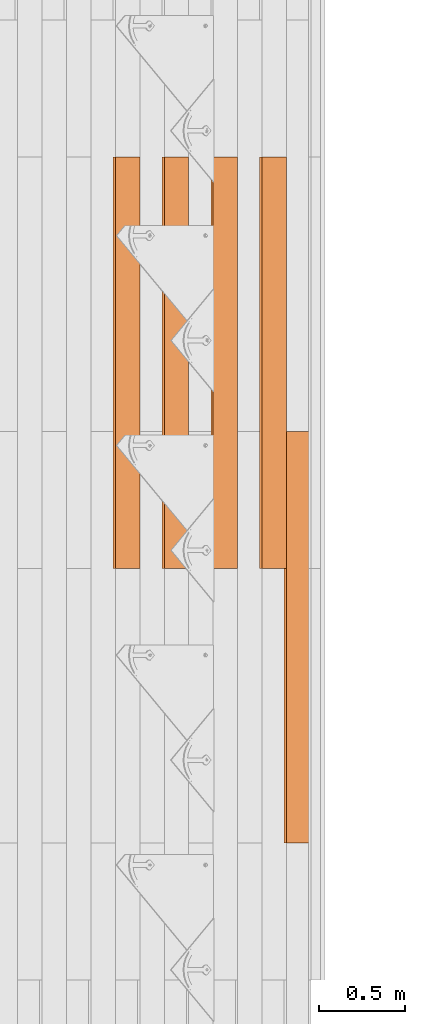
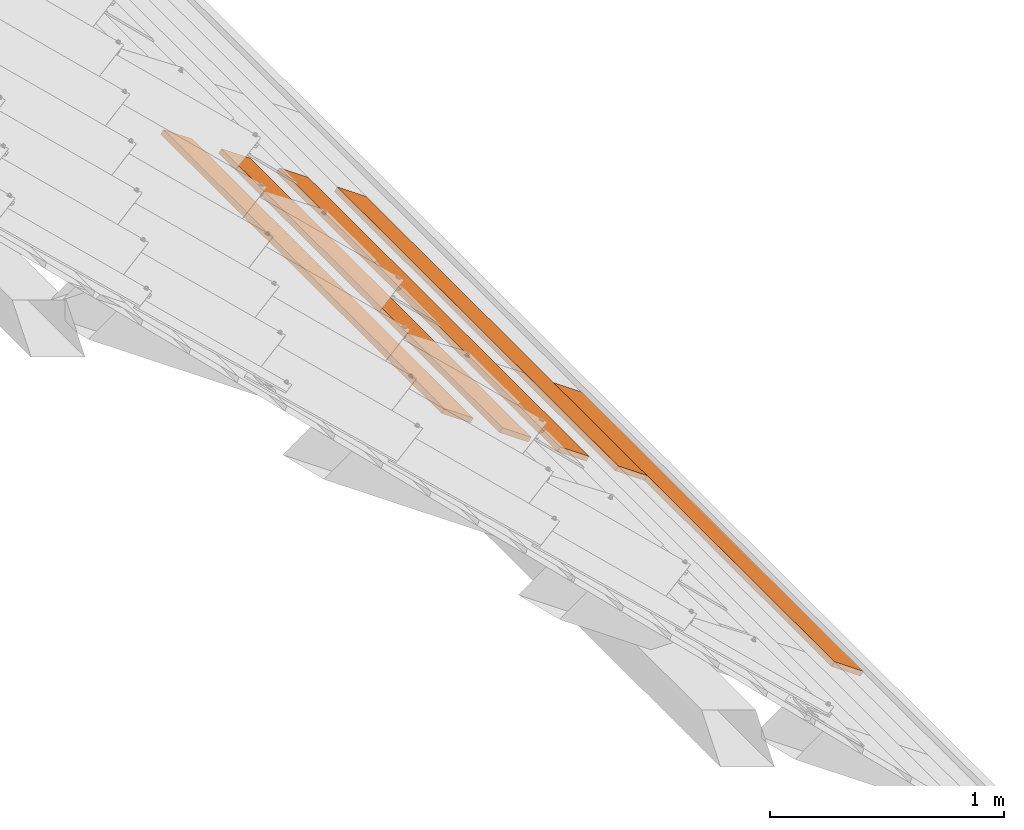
# One storey, part 104 of 151: 5 proxies, 1 element without a shape of its own.
"""IFC2X3 building model written with IfcOpenShell, lengths in millimetres."""

import ifcopenshell
import ifcopenshell.guid

model = None  # the IFC model being written
_history = None  # IfcOwnerHistory: only IFC2X3 demands one
_inside = {}  # id of a spatial element -> (the spatial element, [elements in it])
_under = {}  # id of a project, library or spatial element -> (it, [spatial elements below it])
_declared = {}  # id of a project -> (the project, [libraries it declares])
_typed = {}  # id of a type object -> (the type object, [elements of that type])
_made_of = {}  # id of a material, layer set ... -> (it, [elements and type objects made of it])


def new_model(schema):
    """Start an empty IFC model of exactly this schema.

    Asked for "IFC4X3", IfcOpenShell would pick the latest addendum, in which some entities
    have other attributes; the version numbers below select the first issue.
    IFC2X3 requires an IfcOwnerHistory on every rooted entity: one is made here for all.
    """
    global model, _history
    if schema == "IFC4X3":
        model = ifcopenshell.file(schema_version=(4, 3, 0, 0))
    else:
        model = ifcopenshell.file(schema=schema)
    _inside.clear()
    _under.clear()
    _declared.clear()
    _typed.clear()
    _made_of.clear()
    _history = None
    if model.schema == "IFC2X3":
        org = make("IfcOrganization", Name="unknown")
        user = make(
            "IfcPersonAndOrganization",
            ThePerson=make("IfcPerson", FamilyName="unknown"),
            TheOrganization=org,
        )
        app = make(
            "IfcApplication",
            ApplicationDeveloper=org,
            Version="unknown",
            ApplicationFullName="unknown",
            ApplicationIdentifier="unknown",
        )
        _history = make(
            "IfcOwnerHistory",
            OwningUser=user,
            OwningApplication=app,
            ChangeAction="ADDED",
            CreationDate=0,
        )
    return model


def make(cls, **values):
    """One entity of the class cls with the attributes given. An attribute that is None is left unset."""
    return model.create_entity(
        cls, **{name: value for name, value in values.items() if value is not None}
    )


def entity(cls, *values):
    """Any entity or typed value of the class cls, its attributes in the order of the schema. None: left unset."""
    e = model.create_entity(cls)
    for i, value in enumerate(values):
        if value is not None:
            e[i] = value
    return e


def rooted(cls, **values):
    """An entity with a GlobalId (a new one), such as an element, a storey or a relation."""
    return make(cls, GlobalId=ifcopenshell.guid.new(), OwnerHistory=_history, **values)


def si_unit(unit_type, name, prefix=None):
    """IfcSIUnit, for example si_unit("LENGTHUNIT", "METRE", prefix="MILLI")."""
    return make("IfcSIUnit", UnitType=unit_type, Prefix=prefix, Name=name)


def converted_unit(unit_type, name, factor, base, dimensions=None, offset=None):
    """IfcConversionBasedUnit, such as the inch: factor (a typed value) times the base unit."""
    return make(
        "IfcConversionBasedUnit"
        if offset is None
        else "IfcConversionBasedUnitWithOffset",
        ConversionOffset=offset,
        Dimensions=None
        if dimensions is None
        else entity("IfcDimensionalExponents", *dimensions),
        UnitType=unit_type,
        Name=name,
        ConversionFactor=make(
            "IfcMeasureWithUnit", ValueComponent=factor, UnitComponent=base
        ),
    )


def derived_unit(unit_type, elements):
    """IfcDerivedUnit: a product of units, each with its exponent."""
    return make(
        "IfcDerivedUnit",
        Elements=[
            make("IfcDerivedUnitElement", Unit=unit, Exponent=power)
            for unit, power in elements
        ],
        UnitType=unit_type,
    )


def assignment(units):
    """IfcUnitAssignment: the units of a project."""
    return None if units is None else make("IfcUnitAssignment", Units=units)


def point(xyz):
    """IfcCartesianPoint."""
    return None if xyz is None else make("IfcCartesianPoint", Coordinates=xyz)


def direction(xyz):
    """IfcDirection."""
    return None if xyz is None else make("IfcDirection", DirectionRatios=xyz)


def frame(location, z_axis=None, x_axis=None):
    """IfcAxis2Placement3D, a coordinate frame: its origin and axes. An axis left out is left unset."""
    return make(
        "IfcAxis2Placement3D",
        Location=point(location),
        Axis=direction(z_axis),
        RefDirection=direction(x_axis),
    )


def frame_2d(location, x_axis=None):
    """IfcAxis2Placement2D, a coordinate frame in the plane: its origin and x axis."""
    return make(
        "IfcAxis2Placement2D", Location=point(location), RefDirection=direction(x_axis)
    )


def origin():
    """The frame at (0, 0, 0) with its axes left unset."""
    return frame((0.0, 0.0, 0.0))


def place(relative_to, where):
    """IfcLocalPlacement: puts the frame where relative to a parent placement (None: the world)."""
    return make(
        "IfcLocalPlacement", PlacementRelTo=relative_to, RelativePlacement=where
    )


def context(
    kind, dimensions, precision=None, world=None, true_north=None, identifier=None
):
    """IfcGeometricRepresentationContext, for example the 3D "Model" context."""
    return make(
        "IfcGeometricRepresentationContext",
        ContextIdentifier=identifier,
        ContextType=kind,
        CoordinateSpaceDimension=dimensions,
        Precision=precision,
        WorldCoordinateSystem=world,
        TrueNorth=true_north,
    )


def subcontext(parent, identifier, kind, view, scale=None):
    """IfcGeometricRepresentationSubContext, for example "Body" below "Model"."""
    return make(
        "IfcGeometricRepresentationSubContext",
        ContextIdentifier=identifier,
        ContextType=kind,
        ParentContext=parent,
        TargetScale=scale,
        TargetView=view,
    )


def project(units=None, contexts=None):
    """IfcProject with its units and contexts."""
    return rooted(
        "IfcProject",
        Name="project",
        RepresentationContexts=contexts,
        UnitsInContext=assignment(units),
    )


def spatial(cls, under=None, at=None, **own):
    """A site, building, storey or space (cls), placed at a placement, below another one or the project."""
    s = rooted(cls, ObjectPlacement=at, **own)
    if under is not None:
        _under.setdefault(under.id(), (under, []))[1].append(s)
    return s


def profile(cls, at=None, kind="AREA", **sizes):
    """A parametric profile (cls). Its sizes go by their IFC names, for example OverallWidth=200.0."""
    return make(cls, ProfileType=kind, Position=at, **sizes)


def rectangle(**sizes):
    """IfcRectangleProfileDef."""
    return profile("IfcRectangleProfileDef", **sizes)


def extrude(swept, where, along, depth):
    """IfcExtrudedAreaSolid: the profile swept, set in the frame where, extruded along a direction by depth."""
    return make(
        "IfcExtrudedAreaSolid",
        SweptArea=swept,
        Position=where,
        ExtrudedDirection=direction(along),
        Depth=depth,
    )


def shape(context_of_items, identifier, shape_type, items):
    """IfcShapeRepresentation: the items that make up one representation, for example the "Body"."""
    return make(
        "IfcShapeRepresentation",
        ContextOfItems=context_of_items,
        RepresentationIdentifier=identifier,
        RepresentationType=shape_type,
        Items=items,
    )


def source(mapping_origin, context_of_items, identifier, shape_type, items):
    """IfcRepresentationMap: a shape defined once, which mapped items show again and again."""
    return make(
        "IfcRepresentationMap",
        MappingOrigin=mapping_origin,
        MappedRepresentation=shape(context_of_items, identifier, shape_type, items),
    )


def transform(
    local_origin,
    x_axis=None,
    y_axis=None,
    z_axis=None,
    scale=None,
    scale2=None,
    scale3=None,
    uniform=True,
):
    """IfcCartesianTransformationOperator3D, or its non-uniform kind. x_axis, y_axis, z_axis: its Axis1, 2, 3."""
    if uniform:
        return make(
            "IfcCartesianTransformationOperator3D",
            Axis1=direction(x_axis),
            Axis2=direction(y_axis),
            LocalOrigin=point(local_origin),
            Scale=scale,
            Axis3=direction(z_axis),
        )
    return make(
        "IfcCartesianTransformationOperator3DnonUniform",
        Axis1=direction(x_axis),
        Axis2=direction(y_axis),
        LocalOrigin=point(local_origin),
        Scale=scale,
        Axis3=direction(z_axis),
        Scale2=scale2,
        Scale3=scale3,
    )


def mapped(mapping_source, mapping_target):
    """IfcMappedItem: shows the shape of a source again, moved by a transform."""
    return make(
        "IfcMappedItem", MappingSource=mapping_source, MappingTarget=mapping_target
    )


def material(Name=None, Category=None):
    """IfcMaterial."""
    return make("IfcMaterial", Name=Name, Category=Category)


def made_of(thing, what):
    """Note that an element or type object is made of a material, layer set ...; save() writes the relation."""
    if what is not None:
        _made_of.setdefault(what.id(), (what, []))[1].append(thing)
    return thing


def type_object(cls, material=None, **own):
    """A type object (cls), such as IfcWallType, which elements share."""
    return made_of(rooted(cls, **own), material)


def type_shapes(of_type, sources):
    """Give a type object the sources (RepresentationMaps) that its elements show as mapped items."""
    of_type.RepresentationMaps = sources


def element(
    cls,
    number,
    at=None,
    inside=None,
    cuts=None,
    type_object=None,
    material=None,
    context=None,
    identifier="Body",
    shape_type=None,
    held_by="IfcProductDefinitionShape",
    body=None,
    shapes=None,
    **own,
):
    """One element of the class cls, such as IfcWall. Its Tag is "e" and its number.

    at: its placement. inside: the storey or other place that contains it. cuts: it is an
    opening in that element (IfcRelVoidsElement). A single representation is given by context,
    identifier, shape_type and body (its items); several are given by shapes. held_by: the class
    of the entity that holds the representations. save() writes the other relations.
    """
    e = rooted(cls, Tag="e%d" % number, ObjectPlacement=at, **own)
    if body is not None:
        shapes = [shape(context, identifier, shape_type, body)]
    if shapes is not None:
        e.Representation = make(held_by, Representations=shapes)
    if inside is not None:
        _inside.setdefault(inside.id(), (inside, []))[1].append(e)
    if cuts is not None:
        rooted(
            "IfcRelVoidsElement", RelatingBuildingElement=cuts, RelatedOpeningElement=e
        )
    if type_object is not None:
        _typed.setdefault(type_object.id(), (type_object, []))[1].append(e)
    return made_of(e, material)


def aggregate(whole, parts):
    """IfcRelAggregates: a whole, such as a stair, and the parts it consists of."""
    return rooted("IfcRelAggregates", RelatingObject=whole, RelatedObjects=parts)


def save(model, path):
    """Write the relations noted so far, then the file.

    IfcRelAggregates (storeys below a building ...), IfcRelContainedInSpatialStructure (elements
    in a storey), IfcRelDefinesByType, IfcRelAssociatesMaterial and IfcRelDeclares: one each for
    every whole, place, type object, material and project.
    """
    for whole, parts in _under.values():
        aggregate(whole, parts)
    for where, things in _inside.values():
        rooted(
            "IfcRelContainedInSpatialStructure",
            RelatedElements=things,
            RelatingStructure=where,
        )
    for kind, things in _typed.values():
        rooted("IfcRelDefinesByType", RelatedObjects=things, RelatingType=kind)
    for what, things in _made_of.values():
        rooted("IfcRelAssociatesMaterial", RelatedObjects=things, RelatingMaterial=what)
    for by, libraries in _declared.values():
        rooted("IfcRelDeclares", RelatingContext=by, RelatedDefinitions=libraries)
    model.write(path)


model = new_model("IFC2X3")

# Units and contexts
model_context = context("Model", 3, precision=0.01, world=origin(), true_north=direction((6.12303176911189e-17, 1.0)))
body_context = subcontext(model_context, "Body", "Model", "MODEL_VIEW")
ifc_project = project(units=[si_unit("LENGTHUNIT", "METRE", prefix="MILLI"), si_unit("AREAUNIT", "SQUARE_METRE"), si_unit("VOLUMEUNIT", "CUBIC_METRE"), converted_unit("PLANEANGLEUNIT", "DEGREE", entity("IfcRatioMeasure", 0.0174532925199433), si_unit("PLANEANGLEUNIT", "RADIAN"), dimensions=[0, 0, 0, 0, 0, 0, 0]), si_unit("MASSUNIT", "GRAM", prefix="KILO"), derived_unit("MASSDENSITYUNIT", [(si_unit("MASSUNIT", "GRAM", prefix="KILO"), 1), (si_unit("LENGTHUNIT", "METRE"), -3)]), si_unit("TIMEUNIT", "SECOND"), si_unit("FREQUENCYUNIT", "HERTZ"), si_unit("THERMODYNAMICTEMPERATUREUNIT", "DEGREE_CELSIUS"), derived_unit("THERMALTRANSMITTANCEUNIT", [(si_unit("MASSUNIT", "GRAM", prefix="KILO"), 1), (si_unit("THERMODYNAMICTEMPERATUREUNIT", "KELVIN"), -1), (si_unit("TIMEUNIT", "SECOND"), -3)]), derived_unit("VOLUMETRICFLOWRATEUNIT", [(si_unit("LENGTHUNIT", "METRE"), 3), (si_unit("TIMEUNIT", "SECOND"), -1)]), si_unit("ELECTRICCURRENTUNIT", "AMPERE"), si_unit("ELECTRICVOLTAGEUNIT", "VOLT"), si_unit("POWERUNIT", "WATT"), si_unit("FORCEUNIT", "NEWTON", prefix="KILO"), si_unit("ILLUMINANCEUNIT", "LUX"), si_unit("LUMINOUSFLUXUNIT", "LUMEN"), si_unit("LUMINOUSINTENSITYUNIT", "CANDELA"), derived_unit("USERDEFINED", [(si_unit("MASSUNIT", "GRAM", prefix="KILO"), -1), (si_unit("LENGTHUNIT", "METRE"), -2), (si_unit("TIMEUNIT", "SECOND"), 3), (si_unit("LUMINOUSFLUXUNIT", "LUMEN"), 1)]), derived_unit("LINEARVELOCITYUNIT", [(si_unit("LENGTHUNIT", "METRE"), 1), (si_unit("TIMEUNIT", "SECOND"), -1)]), si_unit("PRESSUREUNIT", "PASCAL"), derived_unit("USERDEFINED", [(si_unit("LENGTHUNIT", "METRE"), -2), (si_unit("MASSUNIT", "GRAM", prefix="KILO"), 1), (si_unit("TIMEUNIT", "SECOND"), -2)])], contexts=[model_context])

# Site, building, storey
site_placement = place(None, origin())
site = spatial("IfcSite", under=ifc_project, at=site_placement, Name="Default", CompositionType="ELEMENT")
building_placement = place(site_placement, origin())
building = spatial("IfcBuilding", under=site, at=building_placement, CompositionType="ELEMENT")
storey_placement = place(building_placement, origin())
storey = spatial("IfcBuildingStorey", under=building, at=storey_placement, Name="Level 1", CompositionType="ELEMENT", Elevation=0.0)

# Assembly, proxies
assembly_placement = place(storey_placement, origin())
assembly = element("IfcElementAssembly", 1, at=assembly_placement, inside=storey, Name="Structural Framing Assembly:Roof Construction Assembly", ObjectType="Structural Framing Assembly:Roof Construction Assembly", AssemblyPlace="NOTDEFINED", PredefinedType="USERDEFINED")
ifc_material = material(Name="Wood - Generic - Wood For Showcase")
building_element_proxy_type_1 = type_object("IfcBuildingElementProxyType", Name="Structural Framing 15", PredefinedType="NOTDEFINED", material=ifc_material)
shared_shape_1 = source(origin(), body_context, "Body", "SweptSolid", [
    extrude(rectangle(XDim=24.9999999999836, YDim=174.344679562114, at=frame_2d((2.22044604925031e-13, -1.63424829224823e-13), x_axis=(1.0, 0.0))), frame((1285.35601305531, 1595.55080214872, 2760.23940055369), z_axis=(0.0, 1.0, 0.0), x_axis=(0.573576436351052, 0.0, 0.819152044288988)), (0.0, 0.0, 1.0), 2400.0),
])
type_shapes(building_element_proxy_type_1, [shared_shape_1])
proxy_1_placement = place(assembly_placement, frame((2770.96908392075, -3340.0, -1900.0)))
proxy_1 = element("IfcBuildingElementProxy", 2, at=proxy_1_placement, type_object=building_element_proxy_type_1, material=ifc_material, Name="Structural Framing 251:Structural Framing 15", ObjectType="Structural Framing 251:Structural Framing 15", context=body_context, shape_type="MappedRepresentation", body=[
    mapped(shared_shape_1, transform((0.0, 0.0, 0.0), scale=1.0)),
])
building_element_proxy_type_2 = type_object("IfcBuildingElementProxyType", Name="Structural Framing 15", PredefinedType="NOTDEFINED", material=ifc_material)
shared_shape_2 = source(origin(), body_context, "Body", "SweptSolid", [
    extrude(rectangle(XDim=24.9999999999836, YDim=174.344679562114, at=frame_2d((2.22044604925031e-13, -1.63424829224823e-13), x_axis=(1.0, 0.0))), frame((1285.35601305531, 1595.55080214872, 2760.23940055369), z_axis=(0.0, 1.0, 0.0), x_axis=(0.573576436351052, 0.0, 0.819152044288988)), (0.0, 0.0, 1.0), 2400.0),
])
type_shapes(building_element_proxy_type_2, [shared_shape_2])
proxy_2_placement = place(assembly_placement, frame((3056.5986852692, -3340.0, -2100.0)))
proxy_2 = element("IfcBuildingElementProxy", 3, at=proxy_2_placement, type_object=building_element_proxy_type_2, material=ifc_material, Name="Structural Framing 261:Structural Framing 15", ObjectType="Structural Framing 261:Structural Framing 15", context=body_context, shape_type="MappedRepresentation", body=[
    mapped(shared_shape_2, transform((0.0, 0.0, 0.0), scale=1.0)),
])
building_element_proxy_type_3 = type_object("IfcBuildingElementProxyType", Name="Structural Framing 15", PredefinedType="NOTDEFINED", material=ifc_material)
shared_shape_3 = source(origin(), body_context, "Body", "SweptSolid", [
    extrude(rectangle(XDim=24.9999999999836, YDim=174.344679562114, at=frame_2d((2.22044604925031e-13, -1.63424829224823e-13), x_axis=(1.0, 0.0))), frame((1285.35601305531, 1595.55080214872, 2760.23940055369), z_axis=(0.0, 1.0, 0.0), x_axis=(0.573576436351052, 0.0, 0.819152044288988)), (0.0, 0.0, 1.0), 2400.0),
])
type_shapes(building_element_proxy_type_3, [shared_shape_3])
proxy_3_placement = place(assembly_placement, frame((3342.22828661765, -3340.0, -2300.0)))
proxy_3 = element("IfcBuildingElementProxy", 4, at=proxy_3_placement, type_object=building_element_proxy_type_3, material=ifc_material, Name="Structural Framing 271:Structural Framing 15", ObjectType="Structural Framing 271:Structural Framing 15", context=body_context, shape_type="MappedRepresentation", body=[
    mapped(shared_shape_3, transform((0.0, 0.0, 0.0), scale=1.0)),
])
building_element_proxy_type_4 = type_object("IfcBuildingElementProxyType", Name="Structural Framing 15", PredefinedType="NOTDEFINED", material=ifc_material)
shared_shape_4 = source(origin(), body_context, "Body", "SweptSolid", [
    extrude(rectangle(XDim=24.9999999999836, YDim=174.344679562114, at=frame_2d((2.22044604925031e-13, -1.63424829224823e-13), x_axis=(1.0, 0.0))), frame((1285.35601305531, 1595.55080214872, 2760.23940055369), z_axis=(0.0, 1.0, 0.0), x_axis=(0.573576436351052, 0.0, 0.819152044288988)), (0.0, 0.0, 1.0), 2400.0),
])
type_shapes(building_element_proxy_type_4, [shared_shape_4])
proxy_4_placement = place(assembly_placement, frame((3627.8578879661, -3340.0, -2500.0)))
proxy_4 = element("IfcBuildingElementProxy", 5, at=proxy_4_placement, type_object=building_element_proxy_type_4, material=ifc_material, Name="Structural Framing 281:Structural Framing 15", ObjectType="Structural Framing 281:Structural Framing 15", context=body_context, shape_type="MappedRepresentation", body=[
    mapped(shared_shape_4, transform((0.0, 0.0, 0.0), scale=1.0)),
])
building_element_proxy_type_5 = type_object("IfcBuildingElementProxyType", Name="Structural Framing 15", PredefinedType="NOTDEFINED", material=ifc_material)
shared_shape_5 = source(origin(), body_context, "Body", "SweptSolid", [
    extrude(rectangle(XDim=24.9999999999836, YDim=174.344679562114, at=frame_2d((2.97539770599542e-13, -4.2632564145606e-14), x_axis=(1.0, 0.0))), frame((1285.35601305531, 1525.55080214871, 2760.23940055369), z_axis=(0.0, 1.0, 0.0), x_axis=(0.573576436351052, 0.0, 0.819152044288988)), (0.0, 0.0, 1.0), 2400.0),
])
type_shapes(building_element_proxy_type_5, [shared_shape_5])
proxy_5_placement = place(assembly_placement, frame((3770.67268864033, -4870.0, -2600.0)))
proxy_5 = element("IfcBuildingElementProxy", 6, at=proxy_5_placement, type_object=building_element_proxy_type_5, material=ifc_material, Name="Structural Framing 287:Structural Framing 15", ObjectType="Structural Framing 287:Structural Framing 15", context=body_context, shape_type="MappedRepresentation", body=[
    mapped(shared_shape_5, transform((0.0, 0.0, 0.0), scale=1.0)),
])
aggregate(assembly, [proxy_1, proxy_2, proxy_3, proxy_4, proxy_5])

save(model, "model.ifc")
